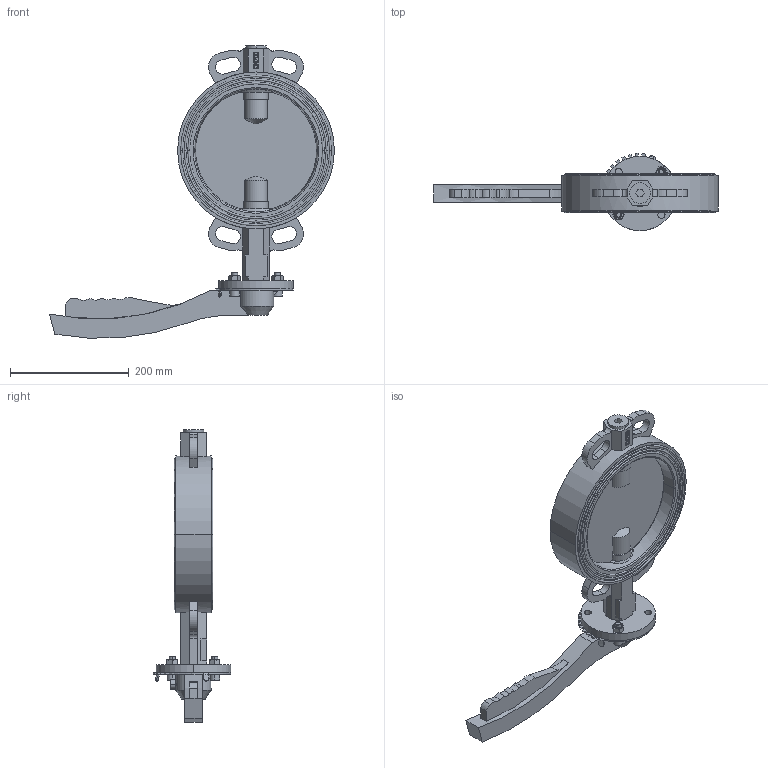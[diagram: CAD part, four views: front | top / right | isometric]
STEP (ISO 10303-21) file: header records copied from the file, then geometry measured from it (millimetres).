
FILE_DESCRIPTION((''),'2;1');
FILE_NAME('SB_RUCHKA_ASM','2023-12-24T',('DIMA'),(''),'PRO/ENGINEER BY PARAMETRIC TECHNOLOGY CORPORATION, 2008020','PRO/ENGINEER BY PARAMETRIC TECHNOLOGY CORPORATION, 2008020','');
FILE_SCHEMA(('CONFIG_CONTROL_DESIGN'));
Length unit declared in the file: millimetre
Products named in the file (18): KORPUS; REZ; DISK; SHTIR_1; ZAGLUSHKA; O-RING; SHTIR_2; SHAIBA_RAZREZ; SHAIBA; KOLCO_34_GOST13943; VTULKA; MANZET_REZ; SB_ASM; PLASTINA; RUCHKA; V-11738-M10X30; G-5915-M10; SB_RUCHKA_ASM
Assembly tree (26 placements, depth 3):
  SB_RUCHKA_ASM
    SB_ASM
      KORPUS
      REZ
      DISK
      SHTIR_1
      ZAGLUSHKA
      O-RING  x2
      SHTIR_2
      SHAIBA_RAZREZ
      SHAIBA  x2
      KOLCO_34_GOST13943
      VTULKA  x5
      MANZET_REZ
    PLASTINA
    RUCHKA
    V-11738-M10X30  x3
    G-5915-M10  x2
Bounding box: 479.5 x 129.96 x 491.99 mm (x, y, z)
Volume: 2846702.8 mm3; surface area: 626195.2 mm2
Topology: 25 solids, 32 shells, 742 faces, 1899 edges, 1247 vertices
Faces by surface type: plane 433, cylinder 226, cone 51, torus 28, bspline 4
Entity records: 21329 total; most frequent: CARTESIAN_POINT 4241, DIRECTION 3608, ORIENTED_EDGE 3396, EDGE_CURVE 1709, AXIS2_PLACEMENT_3D 1252, VERTEX_POINT 1123, VECTOR 1104, LINE 1104
